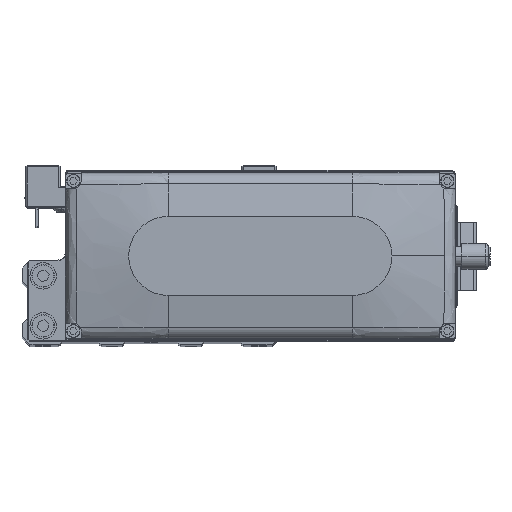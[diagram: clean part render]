
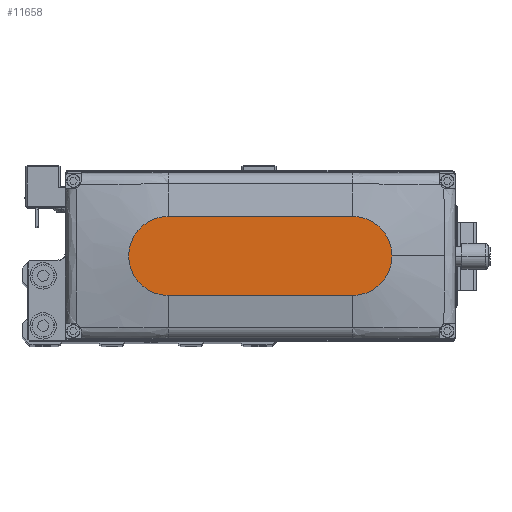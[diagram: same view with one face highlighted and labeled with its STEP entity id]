
A CAD part, top view. The second image highlights one B-rep face of the part: STEP entity #11658.
In plain terms, the highlighted planar face has unit normal (0, 0, 1).
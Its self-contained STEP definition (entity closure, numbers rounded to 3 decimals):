
#1364 = DIRECTION ( 'NONE',  ( 1., 0., 0. ) ) ;
#2580 = DIRECTION ( 'NONE',  ( 0., 0., 1. ) ) ;
#3656 = VERTEX_POINT ( 'NONE', #24118 ) ;
#3860 = CARTESIAN_POINT ( 'NONE',  ( 35., 0., 35. ) ) ;
#4293 = AXIS2_PLACEMENT_3D ( 'NONE', #16824, #29208, #1364 ) ;
#4641 = VECTOR ( 'NONE', #12328, 1000. ) ;
#5614 = ORIENTED_EDGE ( 'NONE', *, *, #24950, .T. ) ;
#5642 = FACE_OUTER_BOUND ( 'NONE', #14130, .T. ) ;
#5992 = CARTESIAN_POINT ( 'NONE',  ( 50., 0., 35. ) ) ;
#6248 = EDGE_CURVE ( 'NONE', #19371, #14368, #13834, .T. ) ;
#6565 = CIRCLE ( 'NONE', #11763, 15. ) ;
#6964 = DIRECTION ( 'NONE',  ( 0., 0., 1. ) ) ;
#7286 = VERTEX_POINT ( 'NONE', #36280 ) ;
#9843 = CARTESIAN_POINT ( 'NONE',  ( -35., 15., 35. ) ) ;
#9906 = ORIENTED_EDGE ( 'NONE', *, *, #29734, .T. ) ;
#11658 = ADVANCED_FACE ( 'NONE', ( #5642 ), #18058, .T. ) ;
#11763 = AXIS2_PLACEMENT_3D ( 'NONE', #34834, #6964, #19387 ) ;
#12328 = DIRECTION ( 'NONE',  ( 1., 0., 0. ) ) ;
#13438 = CARTESIAN_POINT ( 'NONE',  ( -35., 15., 35. ) ) ;
#13834 = CIRCLE ( 'NONE', #36562, 15. ) ;
#14130 = EDGE_LOOP ( 'NONE', ( #33380, #5614, #38619, #31367, #9906 ) ) ;
#14368 = VERTEX_POINT ( 'NONE', #5992 ) ;
#15001 = DIRECTION ( 'NONE',  ( 1., 0., 0. ) ) ;
#16824 = CARTESIAN_POINT ( 'NONE',  ( 35., 0., 35. ) ) ;
#17634 = AXIS2_PLACEMENT_3D ( 'NONE', #30443, #2580, #15001 ) ;
#18058 = PLANE ( 'NONE',  #17634 ) ;
#19371 = VERTEX_POINT ( 'NONE', #31665 ) ;
#19387 = DIRECTION ( 'NONE',  ( 1., 0., 0. ) ) ;
#19679 = EDGE_CURVE ( 'NONE', #3656, #38036, #37721, .T. ) ;
#21844 = CIRCLE ( 'NONE', #4293, 15. ) ;
#22272 = DIRECTION ( 'NONE',  ( -1., 0., 0. ) ) ;
#24118 = CARTESIAN_POINT ( 'NONE',  ( 35., 15., 35. ) ) ;
#24950 = EDGE_CURVE ( 'NONE', #38036, #7286, #6565, .T. ) ;
#25638 = DIRECTION ( 'NONE',  ( 0., 0., 1. ) ) ;
#27785 = LINE ( 'NONE', #40202, #4641 ) ;
#29208 = DIRECTION ( 'NONE',  ( 0., 0., 1. ) ) ;
#29734 = EDGE_CURVE ( 'NONE', #14368, #3656, #21844, .T. ) ;
#30443 = CARTESIAN_POINT ( 'NONE',  ( 0., 0., 35. ) ) ;
#31367 = ORIENTED_EDGE ( 'NONE', *, *, #6248, .T. ) ;
#31665 = CARTESIAN_POINT ( 'NONE',  ( 35., -15., 35. ) ) ;
#32539 = EDGE_CURVE ( 'NONE', #7286, #19371, #27785, .T. ) ;
#33380 = ORIENTED_EDGE ( 'NONE', *, *, #19679, .T. ) ;
#34834 = CARTESIAN_POINT ( 'NONE',  ( -35., 0., 35. ) ) ;
#36280 = CARTESIAN_POINT ( 'NONE',  ( -35., -15., 35. ) ) ;
#36562 = AXIS2_PLACEMENT_3D ( 'NONE', #3860, #25638, #38063 ) ;
#37721 = LINE ( 'NONE', #9843, #40139 ) ;
#38036 = VERTEX_POINT ( 'NONE', #13438 ) ;
#38063 = DIRECTION ( 'NONE',  ( 1., 0., 0. ) ) ;
#38619 = ORIENTED_EDGE ( 'NONE', *, *, #32539, .T. ) ;
#40139 = VECTOR ( 'NONE', #22272, 1000. ) ;
#40202 = CARTESIAN_POINT ( 'NONE',  ( -35., -15., 35. ) ) ;
